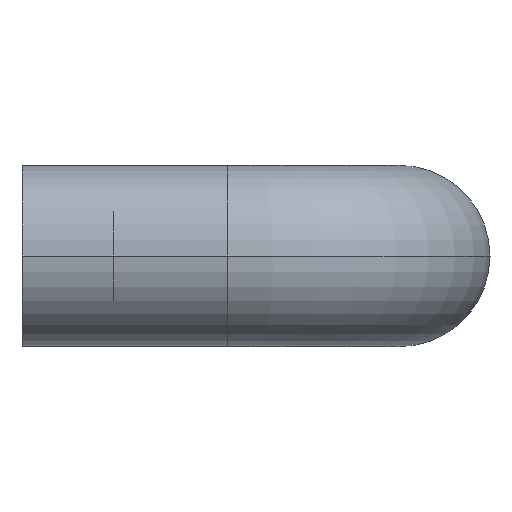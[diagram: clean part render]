
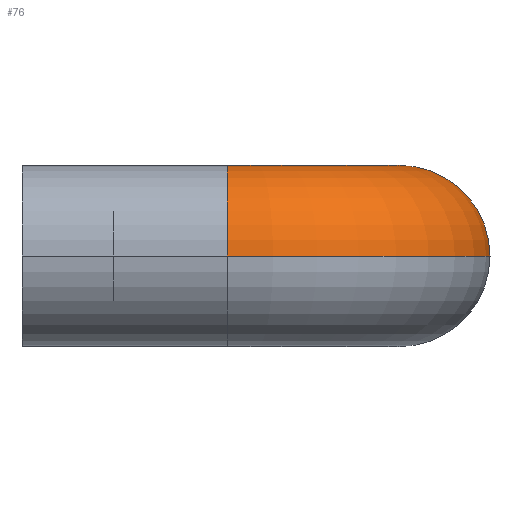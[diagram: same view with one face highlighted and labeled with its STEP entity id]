
A CAD part, left-side view. The second image highlights one B-rep face of the part: STEP entity #76.
In plain terms, the highlighted toroidal (fillet/blend) face has major radius 15 mm and minor radius 7.9 mm.
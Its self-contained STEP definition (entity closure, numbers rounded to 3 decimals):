
#76 = ADVANCED_FACE( '', ( #106 ), #107, .T. );
#106 = FACE_OUTER_BOUND( '', #166, .T. );
#107 = TOROIDAL_SURFACE( '', #167, 15., 7.9 );
#166 = EDGE_LOOP( '', ( #231, #232, #233, #234 ) );
#167 = AXIS2_PLACEMENT_3D( '', #235, #236, #237 );
#231 = ORIENTED_EDGE( '', *, *, #424, .F. );
#232 = ORIENTED_EDGE( '', *, *, #425, .F. );
#233 = ORIENTED_EDGE( '', *, *, #426, .F. );
#234 = ORIENTED_EDGE( '', *, *, #427, .F. );
#235 = CARTESIAN_POINT( '', ( 15., -17.9, 0. ) );
#236 = DIRECTION( '', ( 0., 0., -1. ) );
#237 = DIRECTION( '', ( -1., 0., 0. ) );
#424 = EDGE_CURVE( '', #484, #485, #486, .T. );
#425 = EDGE_CURVE( '', #487, #484, #488, .T. );
#426 = EDGE_CURVE( '', #489, #487, #490, .T. );
#427 = EDGE_CURVE( '', #485, #489, #491, .T. );
#484 = VERTEX_POINT( '', #572 );
#485 = VERTEX_POINT( '', #573 );
#486 = CIRCLE( '', #574, 22.9 );
#487 = VERTEX_POINT( '', #575 );
#488 = CIRCLE( '', #576, 7.9 );
#489 = VERTEX_POINT( '', #577 );
#490 = CIRCLE( '', #578, 7.1 );
#491 = CIRCLE( '', #579, 7.9 );
#572 = CARTESIAN_POINT( '', ( 15., -40.8, 0. ) );
#573 = CARTESIAN_POINT( '', ( -7.9, -17.9, 0. ) );
#574 = AXIS2_PLACEMENT_3D( '', #680, #681, #682 );
#575 = CARTESIAN_POINT( '', ( 15., -25., 0. ) );
#576 = AXIS2_PLACEMENT_3D( '', #683, #684, #685 );
#577 = CARTESIAN_POINT( '', ( 7.9, -17.9, 0. ) );
#578 = AXIS2_PLACEMENT_3D( '', #686, #687, #688 );
#579 = AXIS2_PLACEMENT_3D( '', #689, #690, #691 );
#680 = CARTESIAN_POINT( '', ( 15., -17.9, 0. ) );
#681 = DIRECTION( '', ( 0., 0., -1. ) );
#682 = DIRECTION( '', ( -1., 0., 0. ) );
#683 = CARTESIAN_POINT( '', ( 15., -32.9, 0. ) );
#684 = DIRECTION( '', ( 1., 0., 0. ) );
#685 = DIRECTION( '', ( 0., -1., 0. ) );
#686 = CARTESIAN_POINT( '', ( 15., -17.9, 0. ) );
#687 = DIRECTION( '', ( 0., 0., 1. ) );
#688 = DIRECTION( '', ( -1., 0., 0. ) );
#689 = CARTESIAN_POINT( '', ( 0., -17.9, 0. ) );
#690 = DIRECTION( '', ( 0., 1., 0. ) );
#691 = DIRECTION( '', ( -1., 0., 0. ) );
